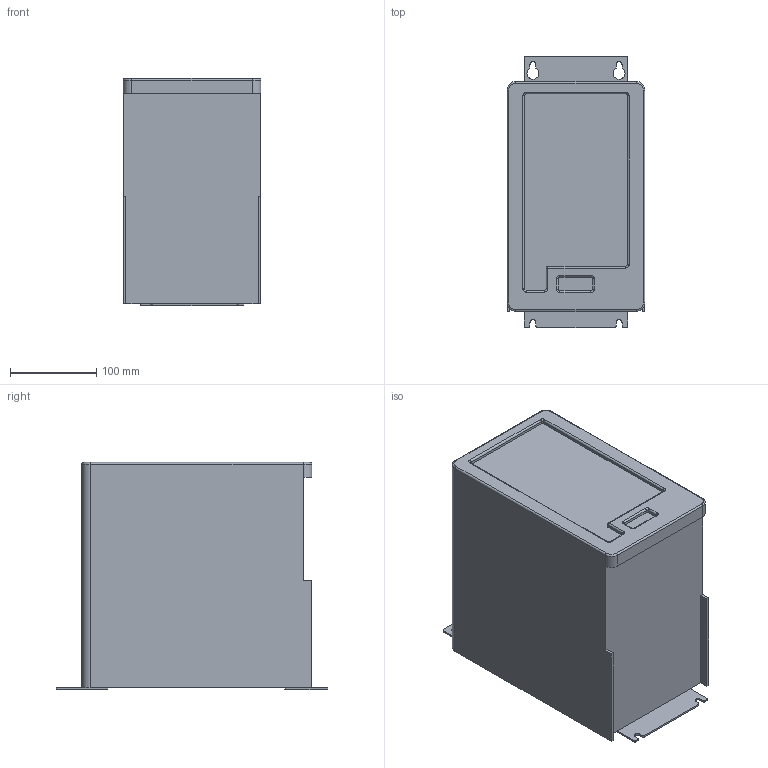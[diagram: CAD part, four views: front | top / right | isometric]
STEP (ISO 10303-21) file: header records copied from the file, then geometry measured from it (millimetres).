
FILE_DESCRIPTION (( 'STEP AP203' ), '1' );
FILE_NAME ('ASG-EH2-HT40-000XXX.STEP', '2017-08-15T12:42:45', ( '' ), ( '' ), 'SwSTEP 2.0', 'SolidWorks 2017', '' );
FILE_SCHEMA (( 'CONFIG_CONTROL_DESIGN' ));
Length unit declared in the file: millimetre
Products named in the file (1): ASG-EH2-HT40-000XXX
Bounding box: 160 x 316 x 264 mm (x, y, z)
Volume: 10707086.9 mm3; surface area: 324381.9 mm2
Topology: 1 solids, 1 shells, 112 faces, 290 edges, 181 vertices
Faces by surface type: cylinder 50, plane 48, torus 13, sphere 1
Entity records: 3491 total; most frequent: DIRECTION 628, CARTESIAN_POINT 583, ORIENTED_EDGE 578, EDGE_CURVE 289, AXIS2_PLACEMENT_3D 226, VERTEX_POINT 181, LINE 176, VECTOR 176
